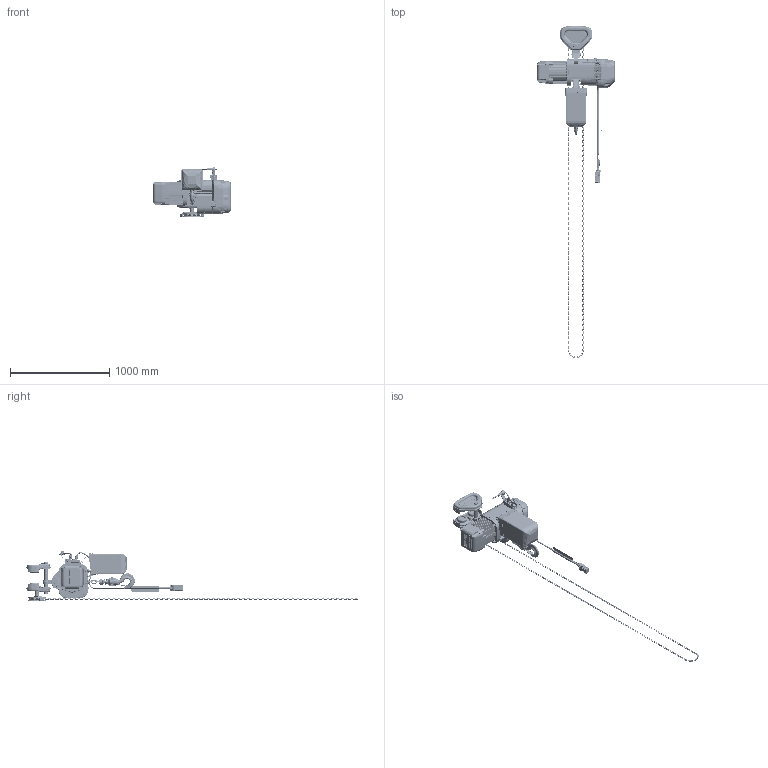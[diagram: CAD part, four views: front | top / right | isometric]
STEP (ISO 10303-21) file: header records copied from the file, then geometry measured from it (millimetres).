
FILE_DESCRIPTION (( 'STEP AP214' ), '1' );
FILE_NAME ('ERG030L.STEP', '2026-08-05T17:23:47', ( '' ), ( '' ), 'SwSTEP 2.0', 'SolidWorks 2026', '' );
FILE_SCHEMA (( 'AUTOMOTIVE_DESIGN' ));
Length unit declared in the file: inch
Products named in the file (82): 9009436_9009436; T6GA0309102; K6CN125J00000_LOAD CHAIN.IGS; T7GA0305111; Z6EC103H10002_PUSH BUTTON CORD EH ASSEMBLY.IGS; C2BA200-90741_LEVER NUT.IGS; T7G117030; ER1BS95342_CABLE SUPPORT L.IGS; ER1FS9028; E2YS005-91161_EYEBOLT PACKING.IGS; ER1ES91182_PACKING M.IGS; ER1ES61211_TOP PIN ASSEMBLY.IGS; HCCF005 for GT2030; ER1ES54042_CHAIN CONTAINER(E1) ASSEMBLY.IGS; ER1FS90512_CHAIN SPRING.IGS; J1BE2-1604545_SOCKET BOLT.IGS; T6GA0109125; ER1ES90291; ER1FS90542_LIMITING PLATE.IGS; MS104030; ER1FS93372_LIMIT LEVER S.IGS; T6GA0309122; ER1ES21221_FIXING SHAFT ASSEMBLY.IGS; T6G5121010; WR2BS91351_OIL PLUG B.IGS; T7GA0309142; ER1FS90041_LEVER SPRING.IGS; ER030L-LV2.IGS; T6G800030G; T6G5101030; split pin (metric) as_9009432; J1BG1-0802525_SOCKET BOLT.IGS; ER1ES71014_BODY B ASSEMBLY.IGS; ER1ES61033_GEAR CASE F ASSEMBLY.IGS; T7GB004030; ER030LTop Yoke Suspension_Top Connection Yoke; ER1BS95122_SOCKET FRAME PACKING.IGS; ER1ES91162_PACKING G.IGS; J1BE1-1008532_SOCKET BOLT.IGS; MS164020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
Assembly tree (373 placements, depth 4):
  ERG030L
    ER030LTop Yoke Suspension_Top Connection Yoke
      ER030L-LV2.IGS
        ER1ES71014_BODY B ASSEMBLY.IGS
        ER1ES91051_MOTOR FRAME.IGS
        ER1ES91071_FAN COVER.IGS
        ER1ES91182_PACKING M.IGS
        ER1ES91162_PACKING G.IGS
        ER1ES61033_GEAR CASE F ASSEMBLY.IGS
        WR2BS91351_OIL PLUG B.IGS
        E2YS005-91161_EYEBOLT PACKING.IGS
        ER1ES91171_PACKING C.IGS
        ER1ES11042_CONTROLLER COVER ASSEMBLY.IGS
        ER1CHM30L9A32_NAME PLATE B.IGS
        ER1FS93312_CHAIN GUIDE A.IGS
        J1BE1-1008532_SOCKET BOLT.IGS
        J1BE1-1007532_SOCKET BOLT.IGS
        C2BA200-90741_LEVER NUT.IGS  x2
        ER1ES54042_CHAIN CONTAINER(E1) ASSEMBLY.IGS
        ER1ES61211_TOP PIN ASSEMBLY.IGS
        ER1FS90022_LEVER.IGS
        C2BA020-90743_LEVER NUT.IGS
        ER1ES90032_LEVER BOLT.IGS
        ER1FS90041_LEVER SPRING.IGS
        ER1FS10112_BOTTOM HOOK COMPLETE SET.IGS
        ER1FS90512_CHAIN SPRING.IGS
        ER1FS90542_LIMITING PLATE.IGS
        ER1FS90413_STOPPER.IGS  x2
        K6CN125J00000_LOAD CHAIN.IGS
        ER1FS90533_CUSHION RUBBER.IGS
        J1BG1-0802525_SOCKET BOLT.IGS
        ER1BS95122_SOCKET FRAME PACKING.IGS
        ER1ES15112_SOCKET FRAME COMPLETE SET.IGS
        Z5CC103-10002_POWER SUPPLY CABLE ASSEMBLY.IGS
        ER1BS95342_CABLE SUPPORT L.IGS
        ER1FS93372_LIMIT LEVER S.IGS
        ER1ES13381_LIMIT LEVER PIN ASSEMBLY.IGS
        Z6EC103H10002_PUSH BUTTON CORD EH ASSEMBLY.IGS
        J1BE2-0804040,J1WH012-10080_BOLT,WASHER.IGS
        J1BE2-1604545_SOCKET BOLT.IGS
        J1BE2-0805528,J1WH012-10080_BOLT,WASHER.IGS
        ER1ES21221_FIXING SHAFT ASSEMBLY.IGS
        J1AP2-5001212_PAN HEAD MACHINE SCREW.IGS
        J1AP2-5002020_PAN HEAD MACHINE SCREW.IGS
        J1BG2-0803030_SOCKET BOLT.IGS
      ER1ES90291
      ER1FS9028
    T7GB004030
    ER1ES9032
    9009436_9009436
    GTS2030_STANDARD SUSPENSION SHAFT (3.23"~6.02")
      T7GA0305112
        T6GA0309112
        T6GA0309103  x2
        T6GA0309113
        T7GA0309141
        T7GA0309142
      T7GA0305111
        T6GA0309111
        T6GA0309103  x2
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Bounding box: 786.5 x 3338.82 x 510.73 mm (x, y, z)
Volume: 43045478.5 mm3; surface area: 4991915.6 mm2
Topology: 428 solids, 598 shells, 15668 faces, 41447 edges, 26743 vertices
Faces by surface type: bspline 8090, cylinder 2832, torus 2250, plane 2080, cone 392, sphere 24
Entity records: 545436 total; most frequent: CARTESIAN_POINT 295134, ORIENTED_EDGE 59356, EDGE_CURVE 29973, VERTEX_POINT 20149, B_SPLINE_CURVE_WITH_KNOTS 19048, DIRECTION 15280, EDGE_LOOP 11608, ADVANCED_FACE 10785
